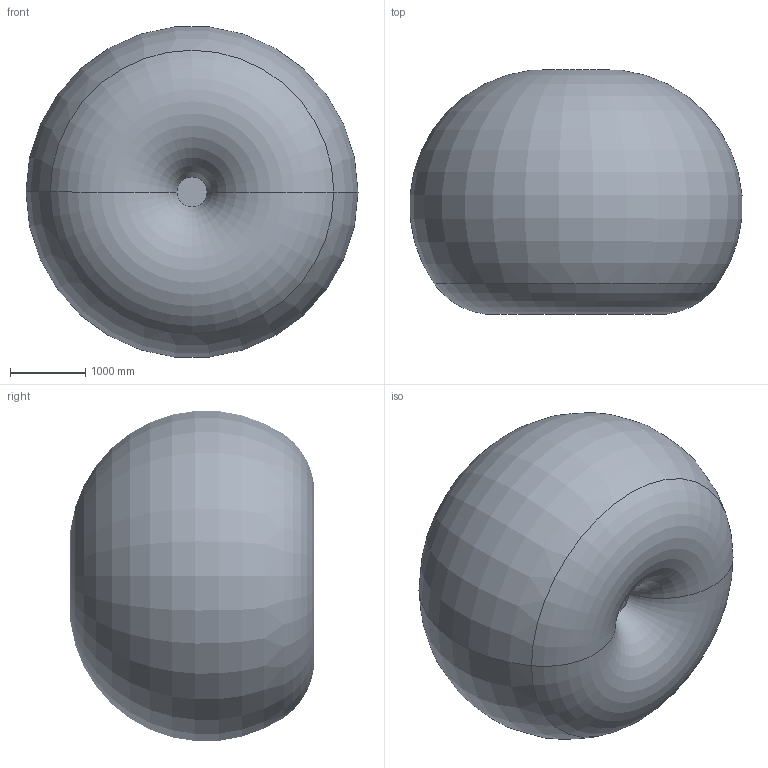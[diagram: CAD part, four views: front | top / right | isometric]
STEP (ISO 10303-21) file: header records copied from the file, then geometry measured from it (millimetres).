
FILE_DESCRIPTION (( 'STEP AP214' ), '1' );
FILE_NAME ('SMART-5 NJ4-90-2.2 (3D-STEP).STEP', '2012-04-12T15:35:50', ( '' ), ( '' ), 'SwSTEP 2.0', 'SolidWorks 2007', '' );
FILE_SCHEMA (( 'AUTOMOTIVE_DESIGN' ));
Length unit declared in the file: millimetre
Products named in the file (25): SMART-5 NJ4-90-2.2_CR82350051_LAFERT_SM; Operation area SMART-5 NJ4-90-2.2; SMART-5 NJ4-90-2.2_p17; SMART-5 NJ4-90-2.2_p15; SMART-5 NJ4-90-2.2_p16; SMART-5 NJ4-90-2.2_p13; SMART-5 NJ4-90-2.2_CR82350031_LAFERT_SM; SMART-5 NJ4-90-2.2_p03; SMART-5 NJ4-90-2.2_p18; SMART-5 NJ4-90-2.2_p09; SMART-5 NJ4-90-2.2_p11; SMART-5 NJ4-90-2.2_p14; SMART-5 NJ4-90-2.2_p19; SMART-5 NJ4-90-2.2_p12(Default); SMART-5 NJ4-90-2.2_p10; SMART-5 NJ4-90-2.2_p02; SMART-5 NJ4-90-2.2_p01; SMART-5 NJ4-90-2.2 (3D-STEP); SMART-5 NJ4-90-2.2_p06; SMART-5 NJ4-90-2.2_p05; SMART-5 NJ4-90-2.2_p04; SMART-5 NJ4-90-2.2_CR82350091_LAFERT_SM; SMART-5 NJ4-90-2.2_CR82350071_LAFERT_SM; SMART-5 NJ4-90-2.2_p08; SMART-5 NJ4-90-2.2_p07
Assembly tree (29 placements, depth 2):
  SMART-5 NJ4-90-2.2 (3D-STEP)
    SMART-5 NJ4-90-2.2_p17  x2
    SMART-5 NJ4-90-2.2_p18
    SMART-5 NJ4-90-2.2_p05
    SMART-5 NJ4-90-2.2_p03
    SMART-5 NJ4-90-2.2_p06
    SMART-5 NJ4-90-2.2_p11  x3
    SMART-5 NJ4-90-2.2_p01
    SMART-5 NJ4-90-2.2_CR82350031_LAFERT_SM  x2
    SMART-5 NJ4-90-2.2_CR82350091_LAFERT_SM
    SMART-5 NJ4-90-2.2_p07
    Operation area SMART-5 NJ4-90-2.2
    SMART-5 NJ4-90-2.2_p16
    SMART-5 NJ4-90-2.2_p08
    SMART-5 NJ4-90-2.2_p13
    SMART-5 NJ4-90-2.2_p10
    SMART-5 NJ4-90-2.2_p02
    SMART-5 NJ4-90-2.2_p19
    SMART-5 NJ4-90-2.2_CR82350071_LAFERT_SM  x2
    SMART-5 NJ4-90-2.2_p14
    SMART-5 NJ4-90-2.2_p12(Default)
    SMART-5 NJ4-90-2.2_p04
    SMART-5 NJ4-90-2.2_p15
    SMART-5 NJ4-90-2.2_p09
    SMART-5 NJ4-90-2.2_CR82350051_LAFERT_SM
Bounding box: 4409.51 x 3248.91 x 4385.36 mm (x, y, z)
Volume: 35090229321.5 mm3; surface area: 75406132.9 mm2
Topology: 29 solids, 29 shells, 5708 faces, 15342 edges, 9926 vertices
Faces by surface type: plane 2532, cylinder 2088, bspline 548, cone 319, torus 208, sphere 13
Entity records: 200136 total; most frequent: CARTESIAN_POINT 74169, ORIENTED_EDGE 26034, DIRECTION 24183, EDGE_CURVE 13017, AXIS2_PLACEMENT_3D 8834, VERTEX_POINT 8506, VECTOR 6515, LINE 6515
